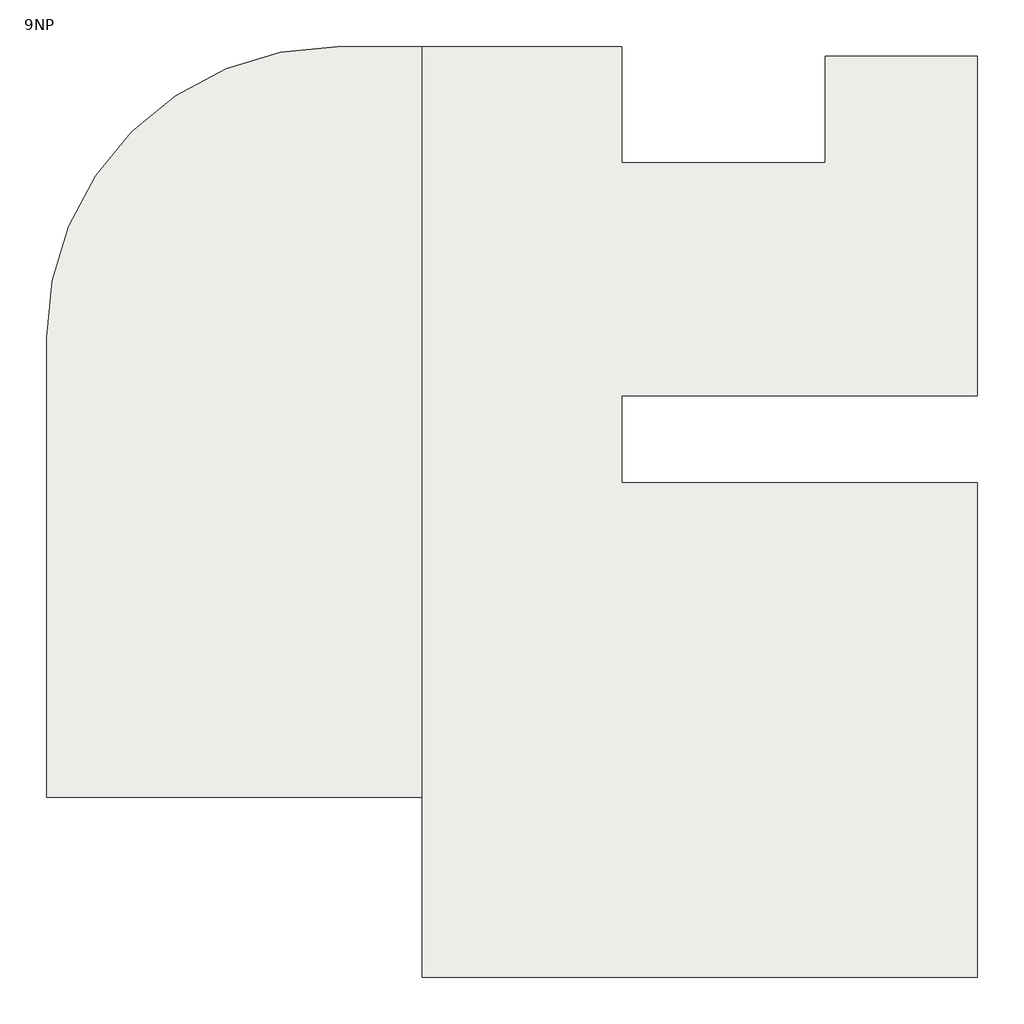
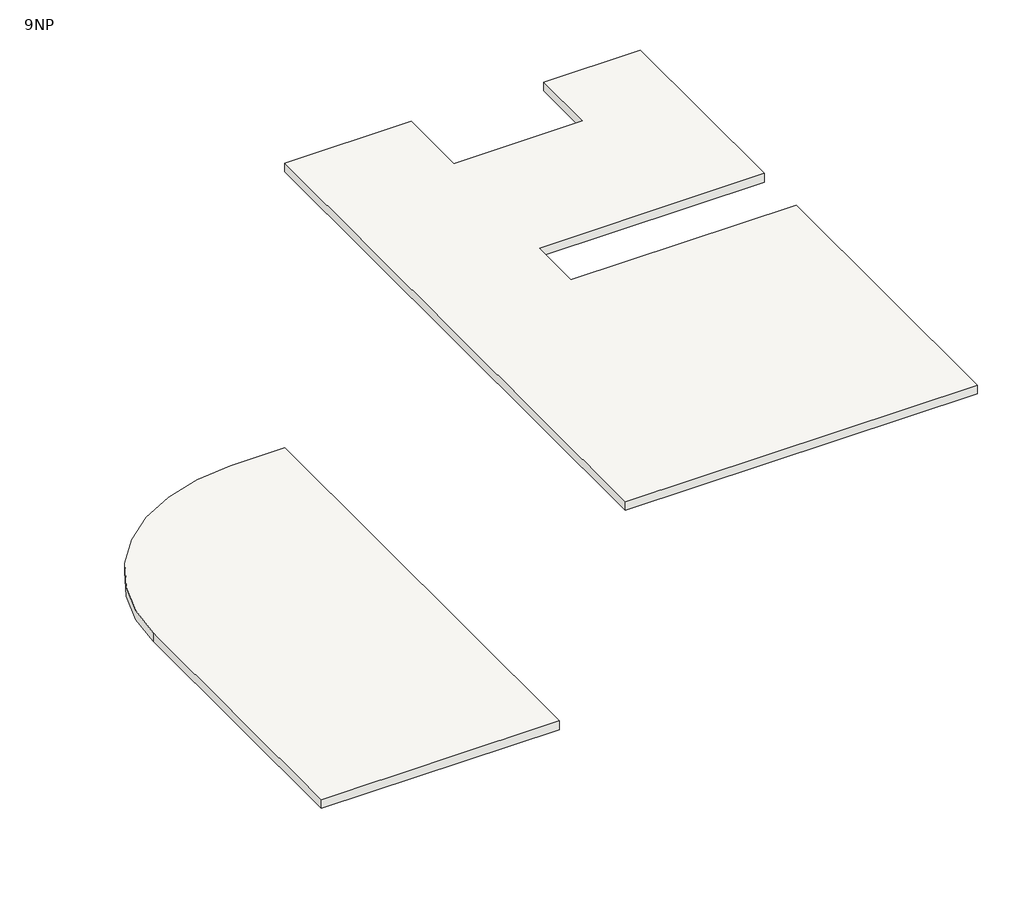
# One storey: 1 roof.
"""IFC4 building model written with IfcOpenShell, lengths in millimetres."""

import ifcopenshell
import ifcopenshell.guid

model = None  # the IFC model being written
_history = None  # IfcOwnerHistory: only IFC2X3 demands one
_inside = {}  # id of a spatial element -> (the spatial element, [elements in it])
_under = {}  # id of a project, library or spatial element -> (it, [spatial elements below it])
_declared = {}  # id of a project -> (the project, [libraries it declares])
_typed = {}  # id of a type object -> (the type object, [elements of that type])
_made_of = {}  # id of a material, layer set ... -> (it, [elements and type objects made of it])


def new_model(schema):
    """Start an empty IFC model of exactly this schema.

    Asked for "IFC4X3", IfcOpenShell would pick the latest addendum, in which some entities
    have other attributes; the version numbers below select the first issue.
    IFC2X3 requires an IfcOwnerHistory on every rooted entity: one is made here for all.
    """
    global model, _history
    if schema == "IFC4X3":
        model = ifcopenshell.file(schema_version=(4, 3, 0, 0))
    else:
        model = ifcopenshell.file(schema=schema)
    _inside.clear()
    _under.clear()
    _declared.clear()
    _typed.clear()
    _made_of.clear()
    _history = None
    if model.schema == "IFC2X3":
        org = make("IfcOrganization", Name="unknown")
        user = make(
            "IfcPersonAndOrganization",
            ThePerson=make("IfcPerson", FamilyName="unknown"),
            TheOrganization=org,
        )
        app = make(
            "IfcApplication",
            ApplicationDeveloper=org,
            Version="unknown",
            ApplicationFullName="unknown",
            ApplicationIdentifier="unknown",
        )
        _history = make(
            "IfcOwnerHistory",
            OwningUser=user,
            OwningApplication=app,
            ChangeAction="ADDED",
            CreationDate=0,
        )
    return model


def make(cls, **values):
    """One entity of the class cls with the attributes given. An attribute that is None is left unset."""
    return model.create_entity(
        cls, **{name: value for name, value in values.items() if value is not None}
    )


def rooted(cls, **values):
    """An entity with a GlobalId (a new one), such as an element, a storey or a relation."""
    return make(cls, GlobalId=ifcopenshell.guid.new(), OwnerHistory=_history, **values)


def si_unit(unit_type, name, prefix=None):
    """IfcSIUnit, for example si_unit("LENGTHUNIT", "METRE", prefix="MILLI")."""
    return make("IfcSIUnit", UnitType=unit_type, Prefix=prefix, Name=name)


def assignment(units):
    """IfcUnitAssignment: the units of a project."""
    return None if units is None else make("IfcUnitAssignment", Units=units)


def point(xyz):
    """IfcCartesianPoint."""
    return None if xyz is None else make("IfcCartesianPoint", Coordinates=xyz)


def direction(xyz):
    """IfcDirection."""
    return None if xyz is None else make("IfcDirection", DirectionRatios=xyz)


def frame(location, z_axis=None, x_axis=None):
    """IfcAxis2Placement3D, a coordinate frame: its origin and axes. An axis left out is left unset."""
    return make(
        "IfcAxis2Placement3D",
        Location=point(location),
        Axis=direction(z_axis),
        RefDirection=direction(x_axis),
    )


def frame_2d(location, x_axis=None):
    """IfcAxis2Placement2D, a coordinate frame in the plane: its origin and x axis."""
    return make(
        "IfcAxis2Placement2D", Location=point(location), RefDirection=direction(x_axis)
    )


def origin():
    """The frame at (0, 0, 0) with its axes left unset."""
    return frame((0.0, 0.0, 0.0))


def place(relative_to, where):
    """IfcLocalPlacement: puts the frame where relative to a parent placement (None: the world)."""
    return make(
        "IfcLocalPlacement", PlacementRelTo=relative_to, RelativePlacement=where
    )


def context(
    kind, dimensions, precision=None, world=None, true_north=None, identifier=None
):
    """IfcGeometricRepresentationContext, for example the 3D "Model" context."""
    return make(
        "IfcGeometricRepresentationContext",
        ContextIdentifier=identifier,
        ContextType=kind,
        CoordinateSpaceDimension=dimensions,
        Precision=precision,
        WorldCoordinateSystem=world,
        TrueNorth=true_north,
    )


def project(units=None, contexts=None):
    """IfcProject with its units and contexts."""
    return rooted(
        "IfcProject",
        Name="project",
        RepresentationContexts=contexts,
        UnitsInContext=assignment(units),
    )


def spatial(cls, under=None, at=None, **own):
    """A site, building, storey or space (cls), placed at a placement, below another one or the project."""
    s = rooted(cls, ObjectPlacement=at, **own)
    if under is not None:
        _under.setdefault(under.id(), (under, []))[1].append(s)
    return s


def polyline(points):
    """IfcPolyline through the points."""
    return make("IfcPolyline", Points=[point(p) for p in points])


def circle_curve(where, radius):
    """IfcCircle in the frame where."""
    return make("IfcCircle", Position=where, Radius=radius)


def trimmed(basis, trim1, trim2, sense, master):
    """IfcTrimmedCurve: the piece of a basis curve between two trims."""
    return make(
        "IfcTrimmedCurve",
        BasisCurve=basis,
        Trim1=trim1,
        Trim2=trim2,
        SenseAgreement=sense,
        MasterRepresentation=master,
    )


def segment(curve, same_sense, transition):
    """IfcCompositeCurveSegment."""
    return make(
        "IfcCompositeCurveSegment",
        Transition=transition,
        SameSense=same_sense,
        ParentCurve=curve,
    )


def composite_curve(segments, self_intersect=None):
    """IfcCompositeCurve: segments joined end to end."""
    return make("IfcCompositeCurve", Segments=segments, SelfIntersect=self_intersect)


def outline(outer, holes=None, kind="AREA"):
    """IfcArbitraryClosedProfileDef: a profile drawn as a closed curve; with holes, ...WithVoids."""
    if holes is None:
        return make("IfcArbitraryClosedProfileDef", ProfileType=kind, OuterCurve=outer)
    return make(
        "IfcArbitraryProfileDefWithVoids",
        ProfileType=kind,
        OuterCurve=outer,
        InnerCurves=holes,
    )


def extrude(swept, where, along, depth):
    """IfcExtrudedAreaSolid: the profile swept, set in the frame where, extruded along a direction by depth."""
    return make(
        "IfcExtrudedAreaSolid",
        SweptArea=swept,
        Position=where,
        ExtrudedDirection=direction(along),
        Depth=depth,
    )


def shape(context_of_items, identifier, shape_type, items):
    """IfcShapeRepresentation: the items that make up one representation, for example the "Body"."""
    return make(
        "IfcShapeRepresentation",
        ContextOfItems=context_of_items,
        RepresentationIdentifier=identifier,
        RepresentationType=shape_type,
        Items=items,
    )


def made_of(thing, what):
    """Note that an element or type object is made of a material, layer set ...; save() writes the relation."""
    if what is not None:
        _made_of.setdefault(what.id(), (what, []))[1].append(thing)
    return thing


def element(
    cls,
    number,
    at=None,
    inside=None,
    cuts=None,
    type_object=None,
    material=None,
    context=None,
    identifier="Body",
    shape_type=None,
    held_by="IfcProductDefinitionShape",
    body=None,
    shapes=None,
    **own,
):
    """One element of the class cls, such as IfcWall. Its Tag is "e" and its number.

    at: its placement. inside: the storey or other place that contains it. cuts: it is an
    opening in that element (IfcRelVoidsElement). A single representation is given by context,
    identifier, shape_type and body (its items); several are given by shapes. held_by: the class
    of the entity that holds the representations. save() writes the other relations.
    """
    e = rooted(cls, Tag="e%d" % number, ObjectPlacement=at, **own)
    if body is not None:
        shapes = [shape(context, identifier, shape_type, body)]
    if shapes is not None:
        e.Representation = make(held_by, Representations=shapes)
    if inside is not None:
        _inside.setdefault(inside.id(), (inside, []))[1].append(e)
    if cuts is not None:
        rooted(
            "IfcRelVoidsElement", RelatingBuildingElement=cuts, RelatedOpeningElement=e
        )
    if type_object is not None:
        _typed.setdefault(type_object.id(), (type_object, []))[1].append(e)
    return made_of(e, material)


def aggregate(whole, parts):
    """IfcRelAggregates: a whole, such as a stair, and the parts it consists of."""
    return rooted("IfcRelAggregates", RelatingObject=whole, RelatedObjects=parts)


def save(model, path):
    """Write the relations noted so far, then the file.

    IfcRelAggregates (storeys below a building ...), IfcRelContainedInSpatialStructure (elements
    in a storey), IfcRelDefinesByType, IfcRelAssociatesMaterial and IfcRelDeclares: one each for
    every whole, place, type object, material and project.
    """
    for whole, parts in _under.values():
        aggregate(whole, parts)
    for where, things in _inside.values():
        rooted(
            "IfcRelContainedInSpatialStructure",
            RelatedElements=things,
            RelatingStructure=where,
        )
    for kind, things in _typed.values():
        rooted("IfcRelDefinesByType", RelatedObjects=things, RelatingType=kind)
    for what, things in _made_of.values():
        rooted("IfcRelAssociatesMaterial", RelatedObjects=things, RelatingMaterial=what)
    for by, libraries in _declared.values():
        rooted("IfcRelDeclares", RelatingContext=by, RelatedDefinitions=libraries)
    model.write(path)


model = new_model("IFC4")

# Units and contexts
model_context = context("Model", 3, world=origin())
ifc_project = project(units=[si_unit("LENGTHUNIT", "METRE", prefix="MILLI")], contexts=[model_context])

# Site, building, storey
site = spatial("IfcSite", under=ifc_project)
building = spatial("IfcBuilding", under=site)
storey = spatial("IfcBuildingStorey", under=building, Name="9NP", Elevation=35000.0)

# Roof
placement = place(None, origin())
element("IfcRoof", 1, ObjectType="Steel Bar Joist - Steel Deck - EPDM Membrane", at=placement, inside=storey, context=model_context, shape_type="SweptSolid", body=[
    extrude(outline(polyline([(-5587.173406, 8375.9839566), (1278.419219, 8375.9839566), (1278.419219, 4375.9839566), (8278.419219, 4375.9839566), (8278.419219, 8039.3555415), (13503.2660975, 8039.3555415), (13503.2660975, -3624.0160434), (1278.419219, -3624.0160434), (1278.419219, -6624.0160434), (13503.2660975, -6624.0160434), (13503.2660975, -23624.0160434), (-5587.173406, -23624.0160434), (-5587.173406, 8375.9839566)])), frame((0.0, 0.0, 28268.2453384), z_axis=(0.0, 0.0, 1.0), x_axis=(1.0, 0.0, 0.0)), (0.0, 0.0, 1.0), 505.0),
    extrude(outline(composite_curve([segment(polyline([(-5587.173406, -17423.5291324), (-18496.7339025, -17423.5291324), (-18496.7339025, -1624.0160434)]), True, "CONTINUOUS"), segment(trimmed(circle_curve(frame_2d((-8496.7339025, -1624.0160434)), 10000.0), [point((-18496.7339025, -1624.0160434))], [point((-8496.7339025, 8375.9839566))], False, "CARTESIAN"), True, "CONTINUOUS"), segment(polyline([(-8496.7339025, 8375.9839566), (-5587.173406, 8375.9839566), (-5587.173406, -17423.5291324)]), True, "CONTINUOUS")], self_intersect=False)), frame((0.0, 0.0, 11943.4924443), z_axis=(0.0, 0.0, 1.0), x_axis=(1.0, 0.0, 0.0)), (0.0, 0.0, 1.0), 505.0),
])

save(model, "model.ifc")
